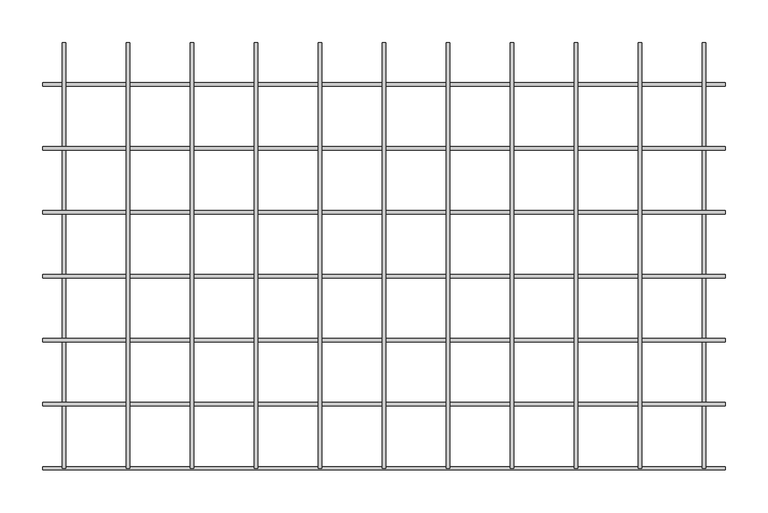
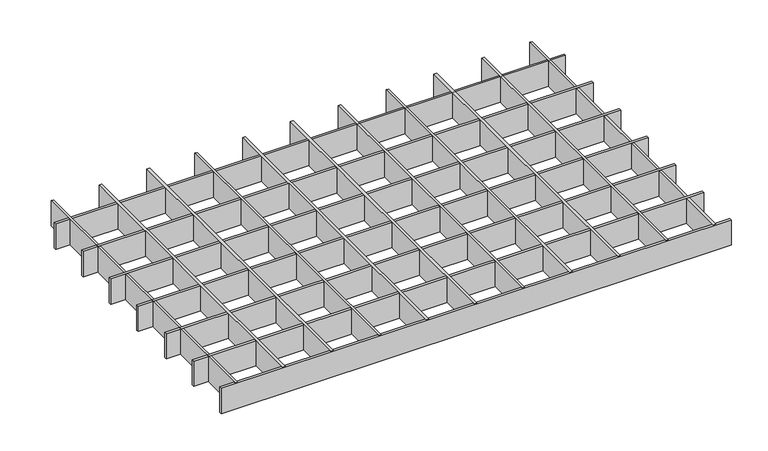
"""IFC4 building model written with IfcOpenShell, lengths in millimetres: proxy geometry, durlum_GEO_panel : durlum_GEO_4_corner_cut."""

import ifcopenshell
import ifcopenshell.guid

model = None  # the IFC model being written
_history = None  # IfcOwnerHistory: only IFC2X3 demands one
_inside = {}  # id of a spatial element -> (the spatial element, [elements in it])
_under = {}  # id of a project, library or spatial element -> (it, [spatial elements below it])
_declared = {}  # id of a project -> (the project, [libraries it declares])
_typed = {}  # id of a type object -> (the type object, [elements of that type])
_made_of = {}  # id of a material, layer set ... -> (it, [elements and type objects made of it])


def new_model(schema):
    """Start an empty IFC model of exactly this schema.

    Asked for "IFC4X3", IfcOpenShell would pick the latest addendum, in which some entities
    have other attributes; the version numbers below select the first issue.
    IFC2X3 requires an IfcOwnerHistory on every rooted entity: one is made here for all.
    """
    global model, _history
    if schema == "IFC4X3":
        model = ifcopenshell.file(schema_version=(4, 3, 0, 0))
    else:
        model = ifcopenshell.file(schema=schema)
    _inside.clear()
    _under.clear()
    _declared.clear()
    _typed.clear()
    _made_of.clear()
    _history = None
    if model.schema == "IFC2X3":
        org = make("IfcOrganization", Name="unknown")
        user = make(
            "IfcPersonAndOrganization",
            ThePerson=make("IfcPerson", FamilyName="unknown"),
            TheOrganization=org,
        )
        app = make(
            "IfcApplication",
            ApplicationDeveloper=org,
            Version="unknown",
            ApplicationFullName="unknown",
            ApplicationIdentifier="unknown",
        )
        _history = make(
            "IfcOwnerHistory",
            OwningUser=user,
            OwningApplication=app,
            ChangeAction="ADDED",
            CreationDate=0,
        )
    return model


def make(cls, **values):
    """One entity of the class cls with the attributes given. An attribute that is None is left unset."""
    return model.create_entity(
        cls, **{name: value for name, value in values.items() if value is not None}
    )


def rooted(cls, **values):
    """An entity with a GlobalId (a new one), such as an element, a storey or a relation."""
    return make(cls, GlobalId=ifcopenshell.guid.new(), OwnerHistory=_history, **values)


def si_unit(unit_type, name, prefix=None):
    """IfcSIUnit, for example si_unit("LENGTHUNIT", "METRE", prefix="MILLI")."""
    return make("IfcSIUnit", UnitType=unit_type, Prefix=prefix, Name=name)


def assignment(units):
    """IfcUnitAssignment: the units of a project."""
    return None if units is None else make("IfcUnitAssignment", Units=units)


def point(xyz):
    """IfcCartesianPoint."""
    return None if xyz is None else make("IfcCartesianPoint", Coordinates=xyz)


def direction(xyz):
    """IfcDirection."""
    return None if xyz is None else make("IfcDirection", DirectionRatios=xyz)


def frame(location, z_axis=None, x_axis=None):
    """IfcAxis2Placement3D, a coordinate frame: its origin and axes. An axis left out is left unset."""
    return make(
        "IfcAxis2Placement3D",
        Location=point(location),
        Axis=direction(z_axis),
        RefDirection=direction(x_axis),
    )


def origin():
    """The frame at (0, 0, 0) with its axes left unset."""
    return frame((0.0, 0.0, 0.0))


def origin_with_axes():
    """The frame at (0, 0, 0) with the z axis (0, 0, 1) and the x axis (1, 0, 0) written out."""
    return frame((0.0, 0.0, 0.0), z_axis=(0.0, 0.0, 1.0), x_axis=(1.0, 0.0, 0.0))


def place(relative_to, where):
    """IfcLocalPlacement: puts the frame where relative to a parent placement (None: the world)."""
    return make(
        "IfcLocalPlacement", PlacementRelTo=relative_to, RelativePlacement=where
    )


def context(
    kind, dimensions, precision=None, world=None, true_north=None, identifier=None
):
    """IfcGeometricRepresentationContext, for example the 3D "Model" context."""
    return make(
        "IfcGeometricRepresentationContext",
        ContextIdentifier=identifier,
        ContextType=kind,
        CoordinateSpaceDimension=dimensions,
        Precision=precision,
        WorldCoordinateSystem=world,
        TrueNorth=true_north,
    )


def project(units=None, contexts=None):
    """IfcProject with its units and contexts."""
    return rooted(
        "IfcProject",
        Name="project",
        RepresentationContexts=contexts,
        UnitsInContext=assignment(units),
    )


def spatial(cls, under=None, at=None, **own):
    """A site, building, storey or space (cls), placed at a placement, below another one or the project."""
    s = rooted(cls, ObjectPlacement=at, **own)
    if under is not None:
        _under.setdefault(under.id(), (under, []))[1].append(s)
    return s


def polyline(points):
    """IfcPolyline through the points."""
    return make("IfcPolyline", Points=[point(p) for p in points])


def outline(outer, holes=None, kind="AREA"):
    """IfcArbitraryClosedProfileDef: a profile drawn as a closed curve; with holes, ...WithVoids."""
    if holes is None:
        return make("IfcArbitraryClosedProfileDef", ProfileType=kind, OuterCurve=outer)
    return make(
        "IfcArbitraryProfileDefWithVoids",
        ProfileType=kind,
        OuterCurve=outer,
        InnerCurves=holes,
    )


def extrude(swept, where, along, depth):
    """IfcExtrudedAreaSolid: the profile swept, set in the frame where, extruded along a direction by depth."""
    return make(
        "IfcExtrudedAreaSolid",
        SweptArea=swept,
        Position=where,
        ExtrudedDirection=direction(along),
        Depth=depth,
    )


def shape(context_of_items, identifier, shape_type, items):
    """IfcShapeRepresentation: the items that make up one representation, for example the "Body"."""
    return make(
        "IfcShapeRepresentation",
        ContextOfItems=context_of_items,
        RepresentationIdentifier=identifier,
        RepresentationType=shape_type,
        Items=items,
    )


def source(mapping_origin, context_of_items, identifier, shape_type, items):
    """IfcRepresentationMap: a shape defined once, which mapped items show again and again."""
    return make(
        "IfcRepresentationMap",
        MappingOrigin=mapping_origin,
        MappedRepresentation=shape(context_of_items, identifier, shape_type, items),
    )


def transform(
    local_origin,
    x_axis=None,
    y_axis=None,
    z_axis=None,
    scale=None,
    scale2=None,
    scale3=None,
    uniform=True,
):
    """IfcCartesianTransformationOperator3D, or its non-uniform kind. x_axis, y_axis, z_axis: its Axis1, 2, 3."""
    if uniform:
        return make(
            "IfcCartesianTransformationOperator3D",
            Axis1=direction(x_axis),
            Axis2=direction(y_axis),
            LocalOrigin=point(local_origin),
            Scale=scale,
            Axis3=direction(z_axis),
        )
    return make(
        "IfcCartesianTransformationOperator3DnonUniform",
        Axis1=direction(x_axis),
        Axis2=direction(y_axis),
        LocalOrigin=point(local_origin),
        Scale=scale,
        Axis3=direction(z_axis),
        Scale2=scale2,
        Scale3=scale3,
    )


def mapped(mapping_source, mapping_target):
    """IfcMappedItem: shows the shape of a source again, moved by a transform."""
    return make(
        "IfcMappedItem", MappingSource=mapping_source, MappingTarget=mapping_target
    )


def made_of(thing, what):
    """Note that an element or type object is made of a material, layer set ...; save() writes the relation."""
    if what is not None:
        _made_of.setdefault(what.id(), (what, []))[1].append(thing)
    return thing


def element(
    cls,
    number,
    at=None,
    inside=None,
    cuts=None,
    type_object=None,
    material=None,
    context=None,
    identifier="Body",
    shape_type=None,
    held_by="IfcProductDefinitionShape",
    body=None,
    shapes=None,
    **own,
):
    """One element of the class cls, such as IfcWall. Its Tag is "e" and its number.

    at: its placement. inside: the storey or other place that contains it. cuts: it is an
    opening in that element (IfcRelVoidsElement). A single representation is given by context,
    identifier, shape_type and body (its items); several are given by shapes. held_by: the class
    of the entity that holds the representations. save() writes the other relations.
    """
    e = rooted(cls, Tag="e%d" % number, ObjectPlacement=at, **own)
    if body is not None:
        shapes = [shape(context, identifier, shape_type, body)]
    if shapes is not None:
        e.Representation = make(held_by, Representations=shapes)
    if inside is not None:
        _inside.setdefault(inside.id(), (inside, []))[1].append(e)
    if cuts is not None:
        rooted(
            "IfcRelVoidsElement", RelatingBuildingElement=cuts, RelatedOpeningElement=e
        )
    if type_object is not None:
        _typed.setdefault(type_object.id(), (type_object, []))[1].append(e)
    return made_of(e, material)


def aggregate(whole, parts):
    """IfcRelAggregates: a whole, such as a stair, and the parts it consists of."""
    return rooted("IfcRelAggregates", RelatingObject=whole, RelatedObjects=parts)


def save(model, path):
    """Write the relations noted so far, then the file.

    IfcRelAggregates (storeys below a building ...), IfcRelContainedInSpatialStructure (elements
    in a storey), IfcRelDefinesByType, IfcRelAssociatesMaterial and IfcRelDeclares: one each for
    every whole, place, type object, material and project.
    """
    for whole, parts in _under.values():
        aggregate(whole, parts)
    for where, things in _inside.values():
        rooted(
            "IfcRelContainedInSpatialStructure",
            RelatedElements=things,
            RelatingStructure=where,
        )
    for kind, things in _typed.values():
        rooted("IfcRelDefinesByType", RelatedObjects=things, RelatingType=kind)
    for what, things in _made_of.values():
        rooted("IfcRelAssociatesMaterial", RelatedObjects=things, RelatingMaterial=what)
    for by, libraries in _declared.values():
        rooted("IfcRelDeclares", RelatingContext=by, RelatedDefinitions=libraries)
    model.write(path)


def generic_models_6ab814e1(model_context):
    return source(origin(), model_context, "Body", "SweptSolid", [
        extrude(outline(polyline([(298.0, 249.5), (302.0, 249.5), (302.0, -249.5), (298.0, -249.5), (298.0, 249.5)])), origin_with_axes(), (0.0, 0.0, 1.0), 42.0),
        extrude(outline(polyline([(223.0, 249.5), (227.0, 249.5), (227.0, -249.5), (223.0, -249.5), (223.0, 249.5)])), origin_with_axes(), (0.0, 0.0, 1.0), 42.0),
        extrude(outline(polyline([(148.0, 249.5), (152.0, 249.5), (152.0, -249.5), (148.0, -249.5), (148.0, 249.5)])), origin_with_axes(), (0.0, 0.0, 1.0), 42.0),
        extrude(outline(polyline([(73.0, 249.5), (77.0, 249.5), (77.0, -249.5), (73.0, -249.5), (73.0, 249.5)])), origin_with_axes(), (0.0, 0.0, 1.0), 42.0),
        extrude(outline(polyline([(-2.0, 249.5), (2.0, 249.5), (2.0, -249.5), (-2.0, -249.5), (-2.0, 249.5)])), origin_with_axes(), (0.0, 0.0, 1.0), 42.0),
        extrude(outline(polyline([(-77.0, 249.5), (-73.0, 249.5), (-73.0, -249.5), (-77.0, -249.5), (-77.0, 249.5)])), origin_with_axes(), (0.0, 0.0, 1.0), 42.0),
        extrude(outline(polyline([(-152.0, 249.5), (-148.0, 249.5), (-148.0, -249.5), (-152.0, -249.5), (-152.0, 249.5)])), origin_with_axes(), (0.0, 0.0, 1.0), 42.0),
        extrude(outline(polyline([(-227.0, 249.5), (-223.0, 249.5), (-223.0, -249.5), (-227.0, -249.5), (-227.0, 249.5)])), origin_with_axes(), (0.0, 0.0, 1.0), 42.0),
        extrude(outline(polyline([(-302.0, 249.5), (-298.0, 249.5), (-298.0, -249.5), (-302.0, -249.5), (-302.0, 249.5)])), origin_with_axes(), (0.0, 0.0, 1.0), 42.0),
        extrude(outline(polyline([(399.75, -172.5), (399.75, -176.5), (-399.75, -176.5), (-399.75, -172.5), (399.75, -172.5)])), origin_with_axes(), (0.0, 0.0, 1.0), 42.0),
        extrude(outline(polyline([(399.75, -97.5), (399.75, -101.5), (-399.75, -101.5), (-399.75, -97.5), (399.75, -97.5)])), origin_with_axes(), (0.0, 0.0, 1.0), 42.0),
        extrude(outline(polyline([(399.75, -22.5), (399.75, -26.5), (-399.75, -26.5), (-399.75, -22.5), (399.75, -22.5)])), origin_with_axes(), (0.0, 0.0, 1.0), 42.0),
        extrude(outline(polyline([(399.75, 52.5), (399.75, 48.5), (-399.75, 48.5), (-399.75, 52.5), (399.75, 52.5)])), origin_with_axes(), (0.0, 0.0, 1.0), 42.0),
        extrude(outline(polyline([(399.75, 127.5), (399.75, 123.5), (-399.75, 123.5), (-399.75, 127.5), (399.75, 127.5)])), origin_with_axes(), (0.0, 0.0, 1.0), 42.0),
        extrude(outline(polyline([(373.0, 249.5), (377.0, 249.5), (377.0, -249.5), (373.0, -249.5), (373.0, 249.5)])), origin_with_axes(), (0.0, 0.0, 1.0), 42.0),
        extrude(outline(polyline([(-377.0, 249.5), (-373.0, 249.5), (-373.0, -249.5), (-377.0, -249.5), (-377.0, 249.5)])), origin_with_axes(), (0.0, 0.0, 1.0), 42.0),
        extrude(outline(polyline([(399.75, -247.5), (399.75, -251.5), (-399.75, -251.5), (-399.75, -247.5), (399.75, -247.5)])), origin_with_axes(), (0.0, 0.0, 1.0), 42.0),
        extrude(outline(polyline([(399.75, 202.5), (399.75, 198.5), (-399.75, 198.5), (-399.75, 202.5), (399.75, 202.5)])), origin_with_axes(), (0.0, 0.0, 1.0), 42.0),
    ])


if __name__ == "__main__":
    model = new_model("IFC4")
    model_context = context("Model", 3, world=origin())
    ifc_project = project(units=[si_unit("LENGTHUNIT", "METRE", prefix="MILLI")], contexts=[model_context])
    site = spatial("IfcSite", under=ifc_project)
    building = spatial("IfcBuilding", under=site)
    placement = place(None, origin())
    generic_models_shape = generic_models_6ab814e1(model_context)
    element("IfcBuildingElementProxy", 1, Name="durlum_GEO_panel : durlum_GEO_4_corner_cut", ObjectType="durlum_GEO_panel : durlum_GEO_4_corner_cut", at=placement, inside=building, context=model_context, shape_type="MappedRepresentation", body=[
        mapped(generic_models_shape, transform((0.0, 0.0, 0.0), x_axis=(1.0, 0.0, 0.0), y_axis=(0.0, 1.0, 0.0), z_axis=(0.0, 0.0, 1.0))),
    ])
    save(model, "model.ifc")
